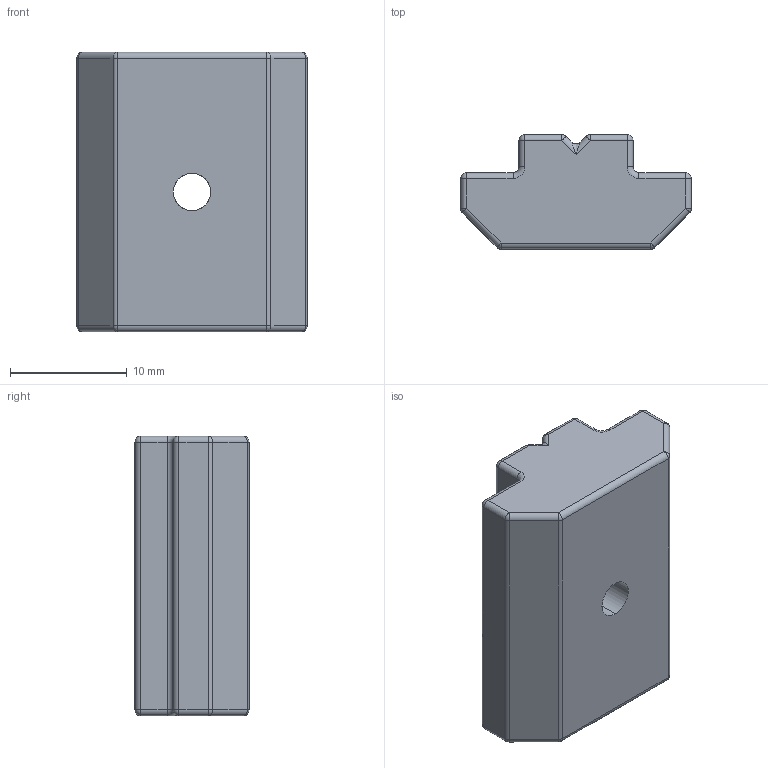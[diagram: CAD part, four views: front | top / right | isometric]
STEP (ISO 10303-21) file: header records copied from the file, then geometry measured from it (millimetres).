
FILE_DESCRIPTION (( 'STEP AP203' ), '1' );
FILE_NAME ('5186.STEP', '2016-04-22T17:13:04', ( '' ), ( '' ), 'SwSTEP 2.0', 'SolidWorks 2014', '' );
FILE_SCHEMA (( 'CONFIG_CONTROL_DESIGN' ));
Length unit declared in the file: millimetre
Products named in the file (1): 5186
Bounding box: 19.8 x 9.8 x 24 mm (x, y, z)
Volume: 3508.6 mm3; surface area: 1663.9 mm2
Topology: 1 solids, 1 shells, 87 faces, 202 edges, 98 vertices
Faces by surface type: cylinder 44, sphere 20, plane 17, torus 4, bspline 2
Entity records: 2415 total; most frequent: CARTESIAN_POINT 484, DIRECTION 422, ORIENTED_EDGE 368, EDGE_CURVE 184, AXIS2_PLACEMENT_3D 168, VERTEX_POINT 98, EDGE_LOOP 88, ADVANCED_FACE 87
